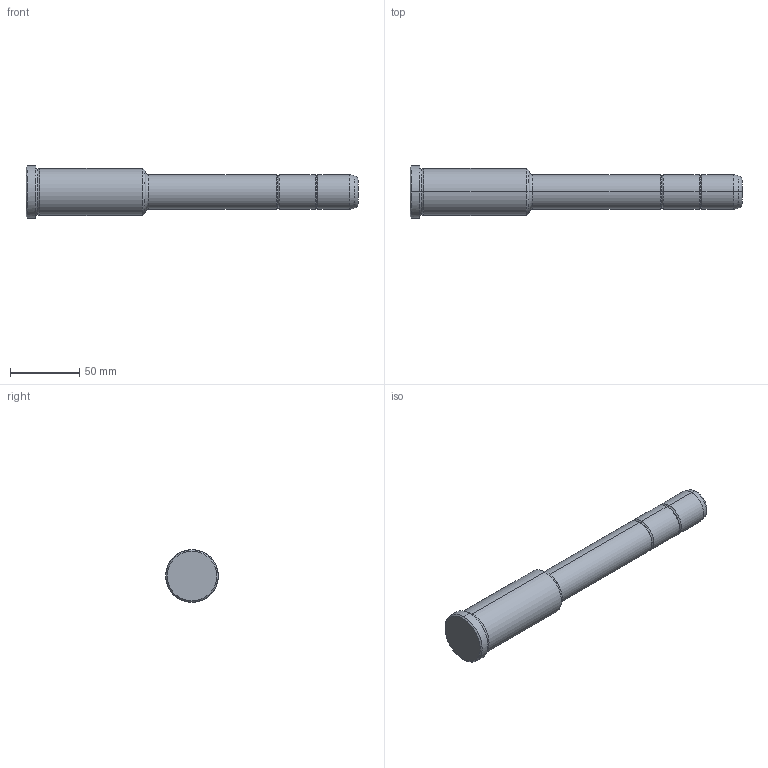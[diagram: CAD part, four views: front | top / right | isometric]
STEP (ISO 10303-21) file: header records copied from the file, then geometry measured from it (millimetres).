
FILE_DESCRIPTION(('CATIA V5 STEP Exchange'),'2;1');
FILE_NAME('C:\Users\Utente\Desktop\IO LAVORO\3D X SITO CF\X SITO\PLASTICA\351\351-25X86X240.stp','2021-09-07T11:23:32+00:00',('none'),('none'),'CATIA Version 5 Release 20 GA (IN-10)','CATIA V5 STEP AP203','none');
FILE_SCHEMA(('CONFIG_CONTROL_DESIGN'));
Length unit declared in the file: millimetre
Products named in the file (1): 351-25X86X240
Bounding box: 240 x 38 x 38 mm (x, y, z)
Volume: 154470 mm3; surface area: 23327.4 mm2
Topology: 1 solids, 1 shells, 36 faces, 102 edges, 70 vertices
Faces by surface type: torus 16, cylinder 10, cone 6, plane 4
Entity records: 1292 total; most frequent: CARTESIAN_POINT 321, ORIENTED_EDGE 204, DIRECTION 166, AXIS2_PLACEMENT_3D 115, EDGE_CURVE 102, CIRCLE 78, VERTEX_POINT 70, EDGE_LOOP 38
